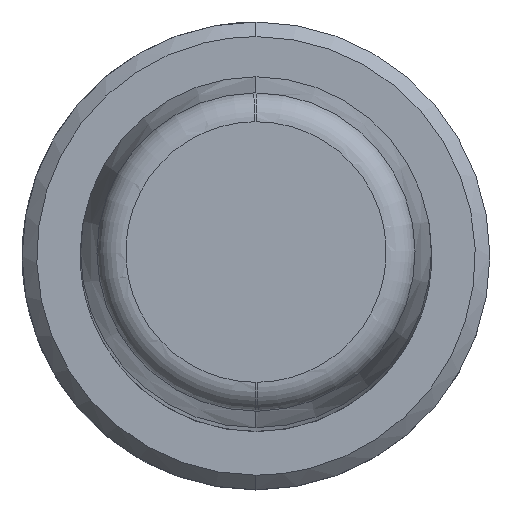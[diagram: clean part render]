
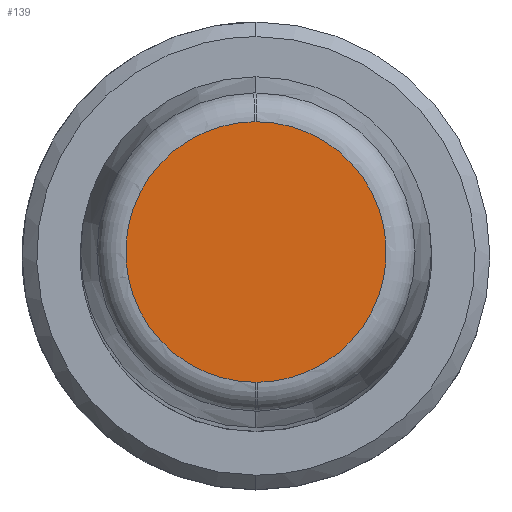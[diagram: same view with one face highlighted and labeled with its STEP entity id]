
A CAD part, top view. The second image highlights one B-rep face of the part: STEP entity #139.
In plain terms, the highlighted planar face has unit normal (0, 0, 1).
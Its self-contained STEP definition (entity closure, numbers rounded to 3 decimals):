
#52=CARTESIAN_POINT('Axis2P3D Location',(0.,0.,80.)) ;
#58=CARTESIAN_POINT('Control Point',(0.058,-4.455,80.)) ;
#59=CARTESIAN_POINT('Control Point',(0.047,-4.455,80.)) ;
#60=CARTESIAN_POINT('Control Point',(0.035,-4.455,80.)) ;
#61=CARTESIAN_POINT('Control Point',(0.023,-4.456,80.)) ;
#62=CARTESIAN_POINT('Control Point',(0.012,-4.456,80.)) ;
#63=CARTESIAN_POINT('Control Point',(0.,-4.456,80.)) ;
#64=CARTESIAN_POINT('Vertex',(0.058,-4.455,80.)) ;
#66=CARTESIAN_POINT('Vertex',(0.,-4.456,80.)) ;
#70=CARTESIAN_POINT('Control Point',(0.,4.456,80.)) ;
#71=CARTESIAN_POINT('Control Point',(0.414,4.456,80.)) ;
#72=CARTESIAN_POINT('Control Point',(0.827,4.408,80.)) ;
#73=CARTESIAN_POINT('Control Point',(1.233,4.312,80.)) ;
#74=CARTESIAN_POINT('Control Point',(2.016,4.027,80.)) ;
#75=CARTESIAN_POINT('Control Point',(2.713,3.571,80.)) ;
#76=CARTESIAN_POINT('Control Point',(3.033,3.303,80.)) ;
#77=CARTESIAN_POINT('Control Point',(3.606,2.698,80.)) ;
#78=CARTESIAN_POINT('Control Point',(4.025,1.978,80.)) ;
#79=CARTESIAN_POINT('Control Point',(4.191,1.596,80.)) ;
#80=CARTESIAN_POINT('Control Point',(4.432,0.799,80.)) ;
#81=CARTESIAN_POINT('Control Point',(4.484,-0.033,80.)) ;
#82=CARTESIAN_POINT('Control Point',(4.462,-0.449,80.)) ;
#83=CARTESIAN_POINT('Control Point',(4.321,-1.27,80.)) ;
#84=CARTESIAN_POINT('Control Point',(3.995,-2.037,80.)) ;
#85=CARTESIAN_POINT('Control Point',(3.789,-2.399,80.)) ;
#86=CARTESIAN_POINT('Control Point',(3.295,-3.07,80.)) ;
#87=CARTESIAN_POINT('Control Point',(2.661,-3.61,80.)) ;
#88=CARTESIAN_POINT('Control Point',(2.314,-3.842,80.)) ;
#89=CARTESIAN_POINT('Control Point',(1.668,-4.171,80.)) ;
#90=CARTESIAN_POINT('Control Point',(0.972,-4.364,80.)) ;
#91=CARTESIAN_POINT('Control Point',(0.67,-4.421,80.)) ;
#92=CARTESIAN_POINT('Control Point',(0.364,-4.451,80.)) ;
#93=CARTESIAN_POINT('Control Point',(0.058,-4.455,80.)) ;
#94=CARTESIAN_POINT('Vertex',(0.,4.456,80.)) ;
#98=CARTESIAN_POINT('Control Point',(-0.058,4.455,80.)) ;
#99=CARTESIAN_POINT('Control Point',(-0.047,4.455,80.)) ;
#100=CARTESIAN_POINT('Control Point',(-0.035,4.455,80.)) ;
#101=CARTESIAN_POINT('Control Point',(-0.023,4.456,80.)) ;
#102=CARTESIAN_POINT('Control Point',(-0.012,4.456,80.)) ;
#103=CARTESIAN_POINT('Control Point',(0.,4.456,80.)) ;
#104=CARTESIAN_POINT('Vertex',(-0.058,4.455,80.)) ;
#108=CARTESIAN_POINT('Control Point',(0.,-4.456,80.)) ;
#109=CARTESIAN_POINT('Control Point',(-0.414,-4.456,80.)) ;
#110=CARTESIAN_POINT('Control Point',(-0.827,-4.408,80.)) ;
#111=CARTESIAN_POINT('Control Point',(-1.233,-4.312,80.)) ;
#112=CARTESIAN_POINT('Control Point',(-2.016,-4.027,80.)) ;
#113=CARTESIAN_POINT('Control Point',(-2.713,-3.571,80.)) ;
#114=CARTESIAN_POINT('Control Point',(-3.033,-3.303,80.)) ;
#115=CARTESIAN_POINT('Control Point',(-3.606,-2.698,80.)) ;
#116=CARTESIAN_POINT('Control Point',(-4.025,-1.978,80.)) ;
#117=CARTESIAN_POINT('Control Point',(-4.191,-1.596,80.)) ;
#118=CARTESIAN_POINT('Control Point',(-4.432,-0.799,80.)) ;
#119=CARTESIAN_POINT('Control Point',(-4.484,0.033,80.)) ;
#120=CARTESIAN_POINT('Control Point',(-4.462,0.449,80.)) ;
#121=CARTESIAN_POINT('Control Point',(-4.321,1.27,80.)) ;
#122=CARTESIAN_POINT('Control Point',(-3.995,2.037,80.)) ;
#123=CARTESIAN_POINT('Control Point',(-3.789,2.399,80.)) ;
#124=CARTESIAN_POINT('Control Point',(-3.295,3.07,80.)) ;
#125=CARTESIAN_POINT('Control Point',(-2.661,3.61,80.)) ;
#126=CARTESIAN_POINT('Control Point',(-2.314,3.842,80.)) ;
#127=CARTESIAN_POINT('Control Point',(-1.668,4.171,80.)) ;
#128=CARTESIAN_POINT('Control Point',(-0.972,4.364,80.)) ;
#129=CARTESIAN_POINT('Control Point',(-0.67,4.421,80.)) ;
#130=CARTESIAN_POINT('Control Point',(-0.364,4.451,80.)) ;
#131=CARTESIAN_POINT('Control Point',(-0.058,4.455,80.)) ;
#53=DIRECTION('Axis2P3D Direction',(0.,0.,1.)) ;
#54=DIRECTION('Axis2P3D XDirection',(0.,-1.,0.)) ;
#55=AXIS2_PLACEMENT_3D('Plane Axis2P3D',#52,#53,#54) ;
#134=ORIENTED_EDGE('',*,*,#68,.F.) ;
#135=ORIENTED_EDGE('',*,*,#96,.F.) ;
#136=ORIENTED_EDGE('',*,*,#106,.F.) ;
#137=ORIENTED_EDGE('',*,*,#132,.F.) ;
#139=ADVANCED_FACE('MANIFOLD_SOLID_BREP #450',(#138),#56,.T.) ;
#57=B_SPLINE_CURVE_WITH_KNOTS('',5,(#58,#59,#60,#61,#62,#63),.UNSPECIFIED.,.F.,.U.,(6,6),(19.713,19.796),.UNSPECIFIED.) ;
#69=B_SPLINE_CURVE_WITH_KNOTS('',5,(#70,#71,#72,#73,#74,#75,#76,#77,#78,#79,#80,#81,#82,#83,#84,#85,#86,#87,#88,#89,#90,#91,#92,#93),.UNSPECIFIED.,.F.,.U.,(6,3,3,3,3,3,3,6),(0.,2.925,5.85,8.774,11.699,14.624,17.549,19.713),.UNSPECIFIED.) ;
#97=B_SPLINE_CURVE_WITH_KNOTS('',5,(#98,#99,#100,#101,#102,#103),.UNSPECIFIED.,.F.,.U.,(6,6),(19.713,19.796),.UNSPECIFIED.) ;
#107=B_SPLINE_CURVE_WITH_KNOTS('',5,(#108,#109,#110,#111,#112,#113,#114,#115,#116,#117,#118,#119,#120,#121,#122,#123,#124,#125,#126,#127,#128,#129,#130,#131),.UNSPECIFIED.,.F.,.U.,(6,3,3,3,3,3,3,6),(0.,2.925,5.85,8.774,11.699,14.624,17.549,19.713),.UNSPECIFIED.) ;
#68=EDGE_CURVE('',#65,#67,#57,.T.) ;
#96=EDGE_CURVE('',#95,#65,#69,.T.) ;
#106=EDGE_CURVE('',#105,#95,#97,.T.) ;
#132=EDGE_CURVE('',#67,#105,#107,.T.) ;
#133=EDGE_LOOP('',(#134,#135,#136,#137)) ;
#138=FACE_OUTER_BOUND('',#133,.T.) ;
#56=PLANE('Plane',#55) ;
#65=VERTEX_POINT('',#64) ;
#67=VERTEX_POINT('',#66) ;
#95=VERTEX_POINT('',#94) ;
#105=VERTEX_POINT('',#104) ;
